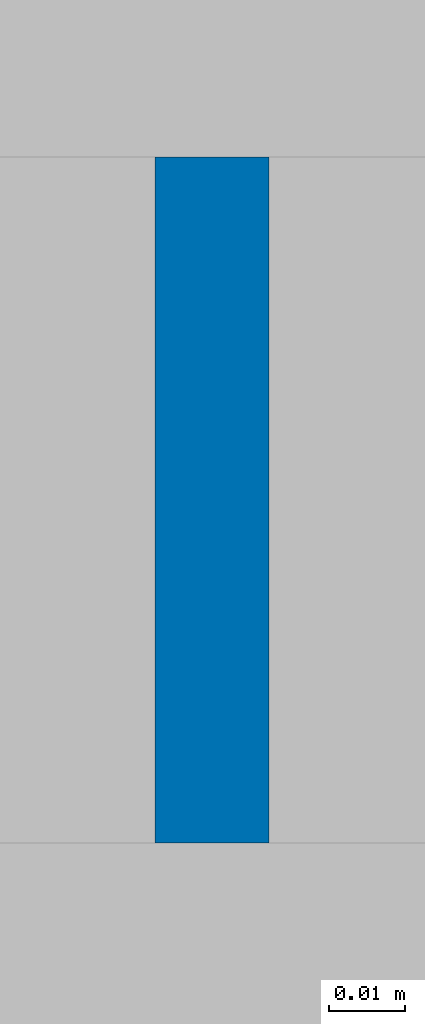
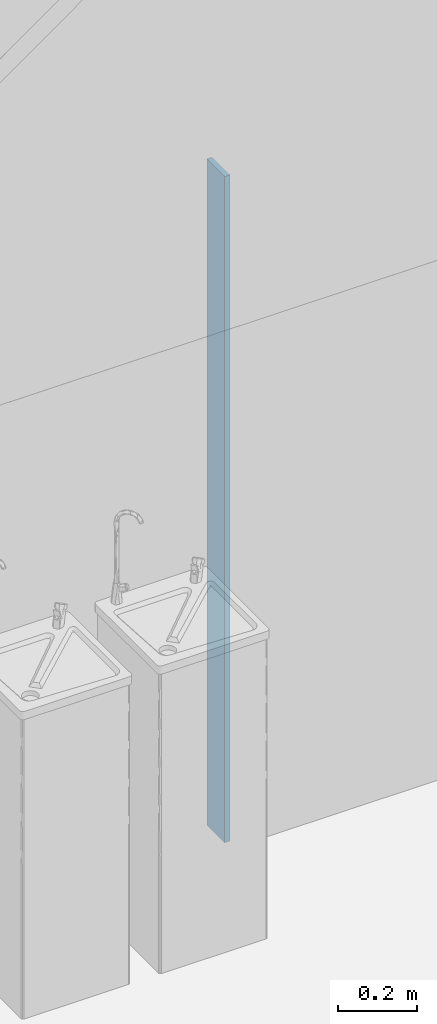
# One storey, part 12 of 155: 1 wall, 1 opening.
"""IFC2X3 building model written with IfcOpenShell, lengths in metres."""

from ifc_helpers import new_model, entity, si_unit, converted_unit, derived_unit, direction, frame, frame_2d, origin, place, context, subcontext, project, spatial, rectangle, extrude, material, layer, layer_set, layer_usage, type_object, element, save


model = new_model("IFC2X3")

# Units and contexts
model_context = context("Model", 3, precision=1e-05, world=origin(), true_north=direction((6.12303176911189e-17, 1.0)))
body_context = subcontext(model_context, "Body", "Model", "MODEL_VIEW")
ifc_project = project(units=[si_unit("LENGTHUNIT", "METRE"), si_unit("AREAUNIT", "SQUARE_METRE"), si_unit("VOLUMEUNIT", "CUBIC_METRE"), converted_unit("PLANEANGLEUNIT", "DEGREE", entity("IfcRatioMeasure", 0.0174532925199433), si_unit("PLANEANGLEUNIT", "RADIAN"), dimensions=[0, 0, 0, 0, 0, 0, 0]), si_unit("MASSUNIT", "GRAM", prefix="KILO"), derived_unit("MASSDENSITYUNIT", [(si_unit("MASSUNIT", "GRAM", prefix="KILO"), 1), (si_unit("LENGTHUNIT", "METRE"), -3)]), si_unit("TIMEUNIT", "SECOND"), si_unit("FREQUENCYUNIT", "HERTZ"), si_unit("THERMODYNAMICTEMPERATUREUNIT", "DEGREE_CELSIUS"), derived_unit("THERMALTRANSMITTANCEUNIT", [(si_unit("MASSUNIT", "GRAM", prefix="KILO"), 1), (si_unit("THERMODYNAMICTEMPERATUREUNIT", "KELVIN"), -1), (si_unit("TIMEUNIT", "SECOND"), -3)]), derived_unit("VOLUMETRICFLOWRATEUNIT", [(si_unit("LENGTHUNIT", "METRE"), 3), (si_unit("TIMEUNIT", "SECOND"), -1)]), si_unit("ELECTRICCURRENTUNIT", "AMPERE"), si_unit("ELECTRICVOLTAGEUNIT", "VOLT"), si_unit("POWERUNIT", "WATT"), si_unit("FORCEUNIT", "NEWTON", prefix="KILO"), si_unit("ILLUMINANCEUNIT", "LUX"), si_unit("LUMINOUSFLUXUNIT", "LUMEN"), si_unit("LUMINOUSINTENSITYUNIT", "CANDELA"), derived_unit("USERDEFINED", [(si_unit("MASSUNIT", "GRAM", prefix="KILO"), -1), (si_unit("LENGTHUNIT", "METRE"), -2), (si_unit("TIMEUNIT", "SECOND"), 3), (si_unit("LUMINOUSFLUXUNIT", "LUMEN"), 1)]), derived_unit("LINEARVELOCITYUNIT", [(si_unit("LENGTHUNIT", "METRE"), 1), (si_unit("TIMEUNIT", "SECOND"), -1)]), si_unit("PRESSUREUNIT", "PASCAL"), derived_unit("USERDEFINED", [(si_unit("LENGTHUNIT", "METRE"), -2), (si_unit("MASSUNIT", "GRAM", prefix="KILO"), 1), (si_unit("TIMEUNIT", "SECOND"), -2)])], contexts=[model_context])

# Site, building, storey
site_placement = place(None, frame((26.9889013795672, -17.5624287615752, 0.0)))
site = spatial("IfcSite", under=ifc_project, at=site_placement, Name="Default", CompositionType="ELEMENT")
building_placement = place(site_placement, origin())
building = spatial("IfcBuilding", under=site, at=building_placement, Name="C. C. L. Monsenhor Antônio Sampaio", CompositionType="ELEMENT")
storey_placement = place(building_placement, frame((0.0, 0.0, 1.19999999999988)))
storey = spatial("IfcBuildingStorey", under=building, at=storey_placement, Name="Nível 1.2", CompositionType="ELEMENT", Elevation=1.19999999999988)

# Wall, opening
ifc_material = material(Name="ALVENARIA")
ifc_layer = layer(ifc_material, 0.09)
ifc_layer_set = layer_set([ifc_layer], Name="Parede básica:ENucleo parede 15cm")
ifc_layer_usage = layer_usage(ifc_layer_set, "AXIS2", "POSITIVE", -0.045)
wall_type = type_object("IfcWallType", Name="Parede básica:ENucleo parede 15cm", PredefinedType="STANDARD", material=ifc_layer_set)
wall_placement = place(storey_placement, frame((-0.175552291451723, -31.8780663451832, 0.0), z_axis=(0.0, 0.0, 1.0), x_axis=(-1.0, 0.0, 0.0)))
wall = element("IfcWallStandardCase", 1, at=wall_placement, inside=storey, type_object=wall_type, material=ifc_layer_usage, Name="Parede básica:ENucleo parede 15cm", ObjectType="Parede básica:ENucleo parede 15cm", context=body_context, shape_type="SweptSolid", body=[
    extrude(rectangle(XDim=0.0149999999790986, YDim=0.0899999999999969, at=frame_2d((0.0074999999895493, 2.77555756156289e-17), x_axis=(-1.0, 0.0))), origin(), (0.0, 0.0, 1.0), 2.05),
])
opening_placement = place(wall_placement, origin())
element("IfcOpeningElement", 2, at=opening_placement, cuts=wall, Name="Parede básica:ENucleo parede 15cm", ObjectType="Opening", context=body_context, shape_type="SweptSolid", body=[
    extrude(rectangle(XDim=2.0, YDim=1.30000000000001, at=frame_2d((1.66533453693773e-16, 0.0), x_axis=(1.0, 0.0))), frame((3.045, -1.569, 2.0), z_axis=(0.0, 1.0, 0.0), x_axis=(0.0, 0.0, 1.0)), (0.0, 0.0, 1.0), 3.048),
])

save(model, "model.ifc")
